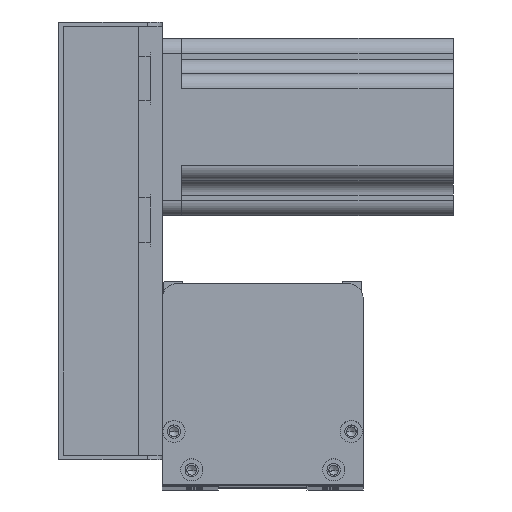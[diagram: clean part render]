
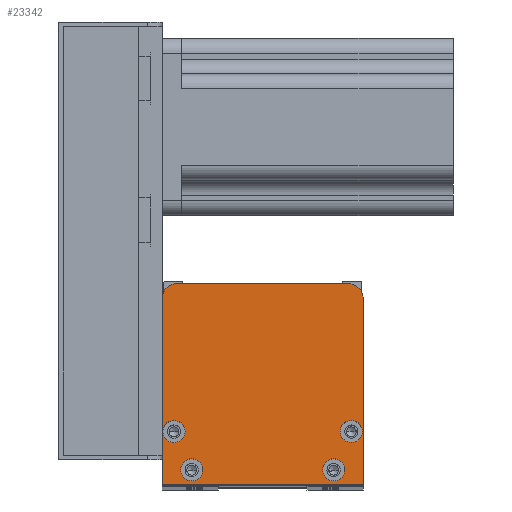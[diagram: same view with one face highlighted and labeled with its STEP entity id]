
A CAD part, top view. The second image highlights one B-rep face of the part: STEP entity #23342.
In plain terms, the highlighted planar face has unit normal (0, 0, 1) as drawn and (0, 0, -1) by its records, which use the part's own axes.
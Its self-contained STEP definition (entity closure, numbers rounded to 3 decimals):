
#239 = VECTOR ( 'NONE', #20239, 1000. ) ;
#270 = CARTESIAN_POINT ( 'NONE',  ( 68., 0., 0. ) ) ;
#826 = VERTEX_POINT ( 'NONE', #8476 ) ;
#854 = VECTOR ( 'NONE', #3422, 1000. ) ;
#1315 = CARTESIAN_POINT ( 'NONE',  ( 4., 18., 0. ) ) ;
#1512 = DIRECTION ( 'NONE',  ( -1., 0., 0. ) ) ;
#2113 = EDGE_CURVE ( 'NONE', #10728, #826, #15465, .T. ) ;
#2759 = ORIENTED_EDGE ( 'NONE', *, *, #18494, .F. ) ;
#2847 = VERTEX_POINT ( 'NONE', #16567 ) ;
#3422 = DIRECTION ( 'NONE',  ( 0., 1., 0. ) ) ;
#3550 = ORIENTED_EDGE ( 'NONE', *, *, #22895, .F. ) ;
#3916 = EDGE_CURVE ( 'NONE', #28474, #27688, #27724, .T. ) ;
#3935 = EDGE_CURVE ( 'NONE', #2847, #27215, #8015, .T. ) ;
#4012 = DIRECTION ( 'NONE',  ( 0., 0., -1. ) ) ;
#4741 = FACE_OUTER_BOUND ( 'NONE', #15576, .T. ) ;
#4791 = EDGE_CURVE ( 'NONE', #22800, #18899, #24804, .T. ) ;
#5016 = DIRECTION ( 'NONE',  ( 0., 0., -1. ) ) ;
#5301 = DIRECTION ( 'NONE',  ( -1., 0., 0. ) ) ;
#5326 = DIRECTION ( 'NONE',  ( 0., 0., -1. ) ) ;
#5512 = EDGE_CURVE ( 'NONE', #14139, #13797, #14075, .T. ) ;
#5758 = DIRECTION ( 'NONE',  ( -1., 0., 0. ) ) ;
#6107 = EDGE_LOOP ( 'NONE', ( #3550, #23577 ) ) ;
#6116 = CARTESIAN_POINT ( 'NONE',  ( 4., 18., 0. ) ) ;
#6475 = LINE ( 'NONE', #270, #239 ) ;
#7371 = CARTESIAN_POINT ( 'NONE',  ( 63., 68., 0. ) ) ;
#7881 = ORIENTED_EDGE ( 'NONE', *, *, #5512, .F. ) ;
#7969 = ORIENTED_EDGE ( 'NONE', *, *, #12073, .F. ) ;
#8015 = CIRCLE ( 'NONE', #26059, 3.75 ) ;
#8081 = AXIS2_PLACEMENT_3D ( 'NONE', #27157, #5326, #16292 ) ;
#8266 = CARTESIAN_POINT ( 'NONE',  ( 10., 5., 0. ) ) ;
#8476 = CARTESIAN_POINT ( 'NONE',  ( 0., 0., 0. ) ) ;
#8724 = EDGE_CURVE ( 'NONE', #10623, #8983, #15581, .T. ) ;
#8743 = ORIENTED_EDGE ( 'NONE', *, *, #23998, .T. ) ;
#8831 = CARTESIAN_POINT ( 'NONE',  ( 58., 5., 0. ) ) ;
#8944 = FACE_BOUND ( 'NONE', #10576, .T. ) ;
#8983 = VERTEX_POINT ( 'NONE', #21704 ) ;
#9083 = ORIENTED_EDGE ( 'NONE', *, *, #20162, .F. ) ;
#9195 = CARTESIAN_POINT ( 'NONE',  ( 0., 0., 0. ) ) ;
#9277 = VECTOR ( 'NONE', #5301, 1000. ) ;
#9307 = CARTESIAN_POINT ( 'NONE',  ( 63., 63., 0. ) ) ;
#9372 = EDGE_CURVE ( 'NONE', #10728, #24011, #9648, .T. ) ;
#9391 = ORIENTED_EDGE ( 'NONE', *, *, #3916, .F. ) ;
#9648 = CIRCLE ( 'NONE', #10984, 5. ) ;
#9939 = CIRCLE ( 'NONE', #24029, 5. ) ;
#10082 = CARTESIAN_POINT ( 'NONE',  ( 68., 0., 0. ) ) ;
#10576 = EDGE_LOOP ( 'NONE', ( #9391, #9083 ) ) ;
#10623 = VERTEX_POINT ( 'NONE', #22042 ) ;
#10728 = VERTEX_POINT ( 'NONE', #22323 ) ;
#10984 = AXIS2_PLACEMENT_3D ( 'NONE', #20857, #25203, #14392 ) ;
#12073 = EDGE_CURVE ( 'NONE', #18899, #22800, #22061, .T. ) ;
#12257 = ORIENTED_EDGE ( 'NONE', *, *, #9372, .T. ) ;
#12302 = EDGE_CURVE ( 'NONE', #16747, #24011, #14117, .T. ) ;
#12468 = DIRECTION ( 'NONE',  ( 0., 0., -1. ) ) ;
#12479 = DIRECTION ( 'NONE',  ( 0., 0., -1. ) ) ;
#12481 = DIRECTION ( 'NONE',  ( -1., 0., 0. ) ) ;
#12730 = CARTESIAN_POINT ( 'NONE',  ( 64., 18., 0. ) ) ;
#13261 = AXIS2_PLACEMENT_3D ( 'NONE', #8831, #18000, #20141 ) ;
#13797 = VERTEX_POINT ( 'NONE', #28419 ) ;
#13878 = ORIENTED_EDGE ( 'NONE', *, *, #4791, .F. ) ;
#13986 = EDGE_CURVE ( 'NONE', #826, #14139, #6475, .T. ) ;
#14075 = LINE ( 'NONE', #21032, #854 ) ;
#14117 = LINE ( 'NONE', #21076, #9277 ) ;
#14139 = VERTEX_POINT ( 'NONE', #10082 ) ;
#14230 = ORIENTED_EDGE ( 'NONE', *, *, #13986, .F. ) ;
#14392 = DIRECTION ( 'NONE',  ( 1., 0., 0. ) ) ;
#14870 = AXIS2_PLACEMENT_3D ( 'NONE', #6116, #26723, #12481 ) ;
#14877 = DIRECTION ( 'NONE',  ( 0., 0., -1. ) ) ;
#14980 = DIRECTION ( 'NONE',  ( 1., 0., 0. ) ) ;
#15329 = AXIS2_PLACEMENT_3D ( 'NONE', #25796, #12479, #1512 ) ;
#15391 = EDGE_LOOP ( 'NONE', ( #2759, #22576 ) ) ;
#15465 = LINE ( 'NONE', #9195, #16150 ) ;
#15576 = EDGE_LOOP ( 'NONE', ( #22886, #12257, #23509, #8743, #7881, #14230 ) ) ;
#15581 = CIRCLE ( 'NONE', #18026, 3.75 ) ;
#16150 = VECTOR ( 'NONE', #17812, 1000. ) ;
#16220 = CARTESIAN_POINT ( 'NONE',  ( 67.75, 18., 0. ) ) ;
#16239 = CARTESIAN_POINT ( 'NONE',  ( 61.75, 5., 0. ) ) ;
#16292 = DIRECTION ( 'NONE',  ( -1., 0., 0. ) ) ;
#16538 = FACE_BOUND ( 'NONE', #6107, .T. ) ;
#16567 = CARTESIAN_POINT ( 'NONE',  ( 7.75, 18., 0. ) ) ;
#16735 = DIRECTION ( 'NONE',  ( -1., 0., 0. ) ) ;
#16747 = VERTEX_POINT ( 'NONE', #7371 ) ;
#16817 = DIRECTION ( 'NONE',  ( 0., 0., -1. ) ) ;
#17812 = DIRECTION ( 'NONE',  ( 0., -1., 0. ) ) ;
#18000 = DIRECTION ( 'NONE',  ( 0., 0., -1. ) ) ;
#18026 = AXIS2_PLACEMENT_3D ( 'NONE', #8266, #14877, #23844 ) ;
#18284 = CARTESIAN_POINT ( 'NONE',  ( 5., 68., 0. ) ) ;
#18494 = EDGE_CURVE ( 'NONE', #27215, #2847, #20025, .T. ) ;
#18899 = VERTEX_POINT ( 'NONE', #16239 ) ;
#18939 = AXIS2_PLACEMENT_3D ( 'NONE', #12730, #4012, #28062 ) ;
#19312 = FACE_BOUND ( 'NONE', #15391, .T. ) ;
#19647 = CIRCLE ( 'NONE', #15329, 3.75 ) ;
#20025 = CIRCLE ( 'NONE', #14870, 3.75 ) ;
#20141 = DIRECTION ( 'NONE',  ( -1., 0., 0. ) ) ;
#20162 = EDGE_CURVE ( 'NONE', #27688, #28474, #23230, .T. ) ;
#20239 = DIRECTION ( 'NONE',  ( 1., 0., 0. ) ) ;
#20857 = CARTESIAN_POINT ( 'NONE',  ( 5., 63., 0. ) ) ;
#21032 = CARTESIAN_POINT ( 'NONE',  ( 68., 0., 0. ) ) ;
#21076 = CARTESIAN_POINT ( 'NONE',  ( 68., 68., 0. ) ) ;
#21331 = CARTESIAN_POINT ( 'NONE',  ( 0., 0., 0. ) ) ;
#21476 = CARTESIAN_POINT ( 'NONE',  ( 60.25, 18., 0. ) ) ;
#21525 = PLANE ( 'NONE',  #24733 ) ;
#21704 = CARTESIAN_POINT ( 'NONE',  ( 6.25, 5., 0. ) ) ;
#22042 = CARTESIAN_POINT ( 'NONE',  ( 13.75, 5., 0. ) ) ;
#22061 = CIRCLE ( 'NONE', #13261, 3.75 ) ;
#22323 = CARTESIAN_POINT ( 'NONE',  ( 0., 63., 0. ) ) ;
#22576 = ORIENTED_EDGE ( 'NONE', *, *, #3935, .F. ) ;
#22800 = VERTEX_POINT ( 'NONE', #28177 ) ;
#22886 = ORIENTED_EDGE ( 'NONE', *, *, #2113, .F. ) ;
#22895 = EDGE_CURVE ( 'NONE', #8983, #10623, #19647, .T. ) ;
#23230 = CIRCLE ( 'NONE', #18939, 3.75 ) ;
#23342 = ADVANCED_FACE ( 'NONE', ( #8944, #19312, #16538, #25869, #4741 ), #21525, .F. ) ;
#23475 = CARTESIAN_POINT ( 'NONE',  ( 0.25, 18., 0. ) ) ;
#23484 = CARTESIAN_POINT ( 'NONE',  ( 64., 18., 0. ) ) ;
#23509 = ORIENTED_EDGE ( 'NONE', *, *, #12302, .F. ) ;
#23577 = ORIENTED_EDGE ( 'NONE', *, *, #8724, .F. ) ;
#23746 = DIRECTION ( 'NONE',  ( 0., 0., 1. ) ) ;
#23844 = DIRECTION ( 'NONE',  ( -1., 0., 0. ) ) ;
#23998 = EDGE_CURVE ( 'NONE', #16747, #13797, #9939, .T. ) ;
#24011 = VERTEX_POINT ( 'NONE', #18284 ) ;
#24029 = AXIS2_PLACEMENT_3D ( 'NONE', #9307, #5016, #24745 ) ;
#24733 = AXIS2_PLACEMENT_3D ( 'NONE', #21331, #23746, #14980 ) ;
#24745 = DIRECTION ( 'NONE',  ( 1., 0., 0. ) ) ;
#24804 = CIRCLE ( 'NONE', #8081, 3.75 ) ;
#24964 = AXIS2_PLACEMENT_3D ( 'NONE', #23484, #12468, #16735 ) ;
#25203 = DIRECTION ( 'NONE',  ( 0., 0., -1. ) ) ;
#25796 = CARTESIAN_POINT ( 'NONE',  ( 10., 5., 0. ) ) ;
#25869 = FACE_BOUND ( 'NONE', #26934, .T. ) ;
#26059 = AXIS2_PLACEMENT_3D ( 'NONE', #1315, #16817, #5758 ) ;
#26723 = DIRECTION ( 'NONE',  ( 0., 0., -1. ) ) ;
#26934 = EDGE_LOOP ( 'NONE', ( #13878, #7969 ) ) ;
#27157 = CARTESIAN_POINT ( 'NONE',  ( 58., 5., 0. ) ) ;
#27215 = VERTEX_POINT ( 'NONE', #23475 ) ;
#27688 = VERTEX_POINT ( 'NONE', #16220 ) ;
#27724 = CIRCLE ( 'NONE', #24964, 3.75 ) ;
#28062 = DIRECTION ( 'NONE',  ( -1., 0., 0. ) ) ;
#28177 = CARTESIAN_POINT ( 'NONE',  ( 54.25, 5., 0. ) ) ;
#28419 = CARTESIAN_POINT ( 'NONE',  ( 68., 63., 0. ) ) ;
#28474 = VERTEX_POINT ( 'NONE', #21476 ) ;
